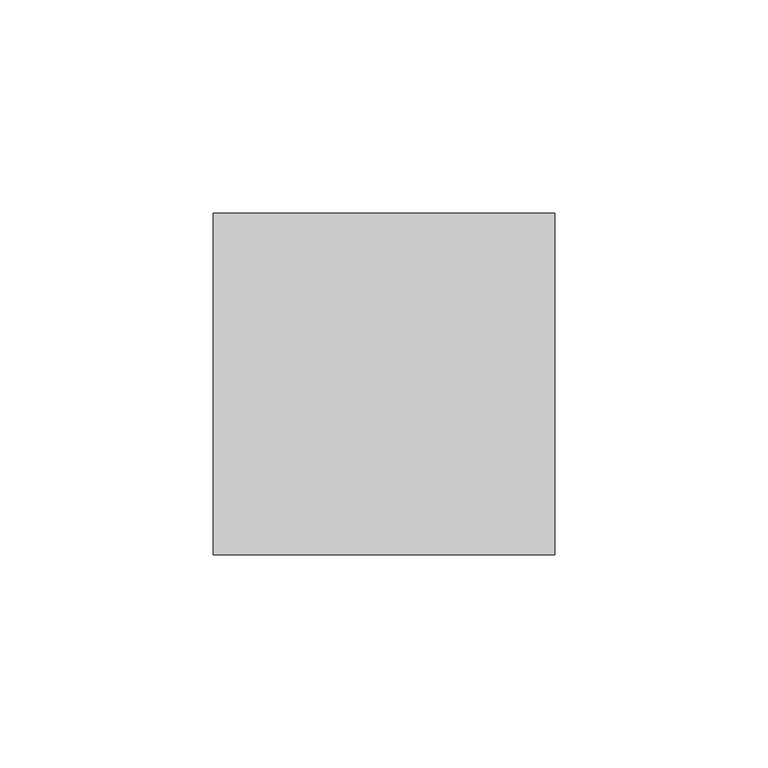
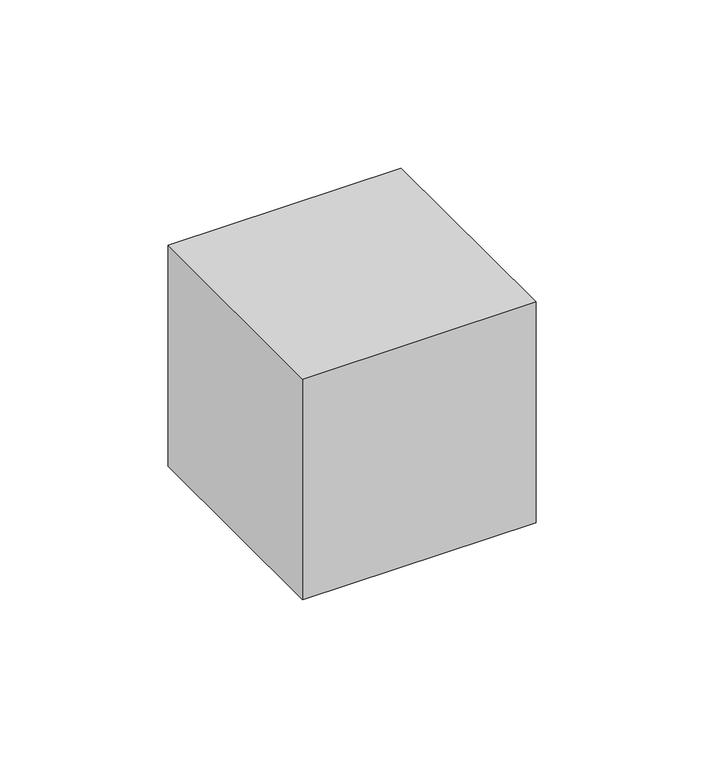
"""IFC4 building model written with IfcOpenShell, lengths in millimetres: proxy geometry, Schwachstromdose : Schwachstromdose."""

from ifc_helpers import new_model, si_unit, frame, origin, place, context, project, spatial, polyline, outline, extrude, source, transform, mapped, element, save


def electrical_equipment_b557190b(model_context):
    return source(origin(), model_context, "Body", "SweptSolid", [
        extrude(outline(polyline([(40.0, -40.0), (-40.0, -40.0), (-40.0, 40.0), (40.0, 40.0), (40.0, -40.0)])), frame((0.0, 0.0, 200.0), z_axis=(0.0, 0.0, 1.0), x_axis=(1.0, 0.0, 0.0)), (0.0, 0.0, 1.0), 80.0),
    ])


if __name__ == "__main__":
    model = new_model("IFC4")
    model_context = context("Model", 3, world=origin())
    ifc_project = project(units=[si_unit("LENGTHUNIT", "METRE", prefix="MILLI")], contexts=[model_context])
    site = spatial("IfcSite", under=ifc_project)
    building = spatial("IfcBuilding", under=site)
    placement = place(None, origin())
    electrical_equipment_shape = electrical_equipment_b557190b(model_context)
    element("IfcBuildingElementProxy", 1, Name="Schwachstromdose : Schwachstromdose", ObjectType="Schwachstromdose : Schwachstromdose", at=placement, inside=building, context=model_context, shape_type="MappedRepresentation", body=[
        mapped(electrical_equipment_shape, transform((0.0, 0.0, 0.0), x_axis=(1.0, 0.0, 0.0), y_axis=(0.0, 1.0, 0.0), z_axis=(0.0, 0.0, 1.0))),
    ])
    save(model, "model.ifc")
